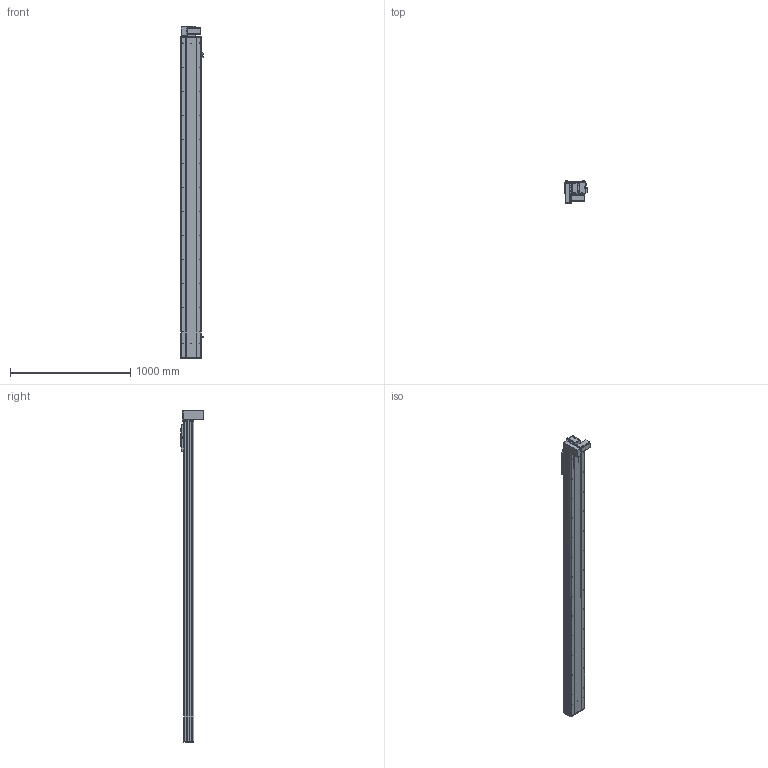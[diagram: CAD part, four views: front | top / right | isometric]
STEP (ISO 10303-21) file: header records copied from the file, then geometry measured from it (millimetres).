
FILE_DESCRIPTION (( 'STEP AP203' ), '1' );
FILE_NAME ('Y170CB-D105-S2350-BM-P400W.STEP', '2020-02-20T07:40:18', ( '微软用户' ), ( '微软中国' ), 'SwSTEP 2.0', 'SolidWorks 2017', '' );
FILE_SCHEMA (( 'CONFIG_CONTROL_DESIGN' ));
Length unit declared in the file: millimetre
Products named in the file (18): 70CB--耜裔; 70B喘謫眊----; 70C-雄赽釱-奻-; B-源倛裔啣; Y170CB-D105-S2350-BM-P400W; 0C--雄赽釱俋欶-170; 0B-萇儂楊擘啣; 70CB-詩湍--; san松下电机400不带刹车----; Y100-135俋离換覜ん--; 70CB-掛极-; Y170CB-陔俋离換覜結え---; --70CB --喘謫眊楊擘啣-; Y1埴倛裔; 70CB-耜裔啣-; 17B-耜蚾蟀諉啣----; 70C--詩湍揤踡え-; 00B-俋欶BM--163
Assembly tree (21 placements, depth 2):
  Y170CB-D105-S2350-BM-P400W
    B-源倛裔啣
    0B-萇儂楊擘啣
    san松下电机400不带刹车----
    70CB-掛极-
    --70CB --喘謫眊楊擘啣-
    70CB-耜裔啣-  x2
    70C--詩湍揤踡え-  x2
    70CB--耜裔
    70C-雄赽釱-奻-
    0C--雄赽釱俋欶-170
    70CB-詩湍--
    Y100-135俋离換覜ん--  x3
    Y170CB-陔俋离換覜結え---
    Y1埴倛裔
    17B-耜蚾蟀諉啣----
    00B-俋欶BM--163
    70B喘謫眊----
Bounding box: 183.5 x 184 x 2766 mm (x, y, z)
Volume: 11854647.5 mm3; surface area: 4279277.2 mm2
Topology: 21 solids, 21 shells, 1063 faces, 2861 edges, 1898 vertices
Faces by surface type: cylinder 577, plane 462, cone 24
Entity records: 34080 total; most frequent: CARTESIAN_POINT 6276, DIRECTION 5546, ORIENTED_EDGE 5204, EDGE_CURVE 2602, AXIS2_PLACEMENT_3D 2048, VERTEX_POINT 1728, LINE 1450, VECTOR 1450
